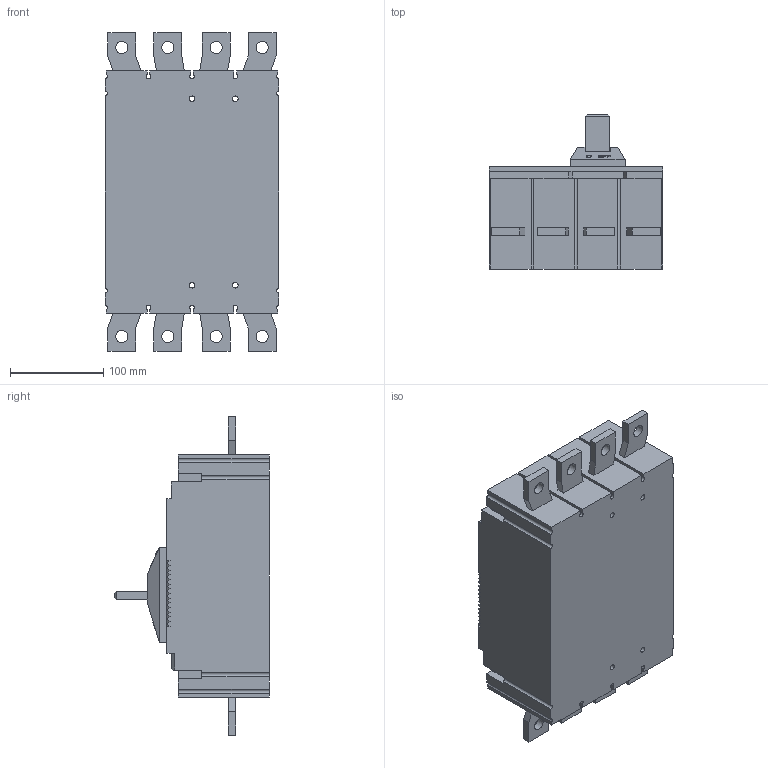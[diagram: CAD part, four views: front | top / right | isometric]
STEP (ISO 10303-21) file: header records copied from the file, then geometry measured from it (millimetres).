
FILE_DESCRIPTION(/* description */ ('','CAx-IF Rec.Pracs.---Representation and Presentation of Product Manufacturing Information (PMI)---3.8---2014-02-18'),/* implementation_level */ '2;1');
FILE_NAME(/* name */ 'E:\3D model\42-susol-mccb-630af-iec-4pl.stp',/* time_stamp */ '2017-11-09T14:52:52+03:00',/* author */ ('dobrin'),/* organization */ (''),/* preprocessor_version */ 'ST-DEVELOPER v16.13',/* originating_system */ 'Autodesk Inventor 2018',/* authorisation */ '');
FILE_SCHEMA (('AP242_MANAGED_MODEL_BASED_3D_ENGINEERING_MIM_LF { 1 0 10303 442 1 1 4 }'));
Length unit declared in the file: metre
Products named in the file (1): 42-susol-mccb-630af-iec-4pl
Bounding box: 186.5 x 166 x 342 mm (x, y, z)
Volume: 5251381.3 mm3; surface area: 252285.6 mm2
Topology: 1 solids, 1 shells, 487 faces, 1278 edges, 836 vertices
Faces by surface type: plane 387, cylinder 78, cone 14, torus 8
Full cylindrical faces by diameter (mm): 5 x7, 6 x4, 8 x1, 11.4 x8, 13 x8, 18.6 x8
Entity records: 14570 total; most frequent: CARTESIAN_POINT 2537, ORIENTED_EDGE 2408, DIRECTION 2402, EDGE_CURVE 1204, LINE 1016, VECTOR 1016, VERTEX_POINT 820, AXIS2_PLACEMENT_3D 697
